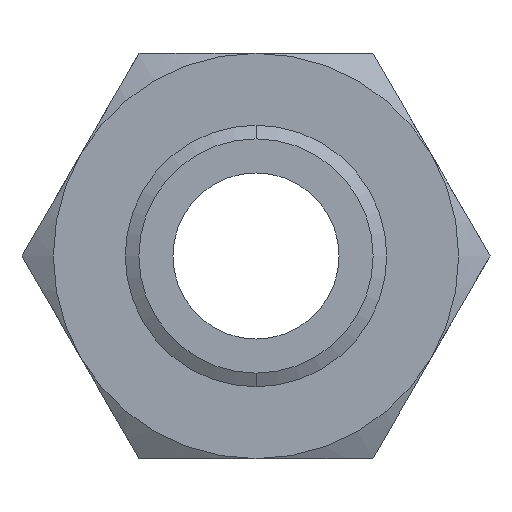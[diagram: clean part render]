
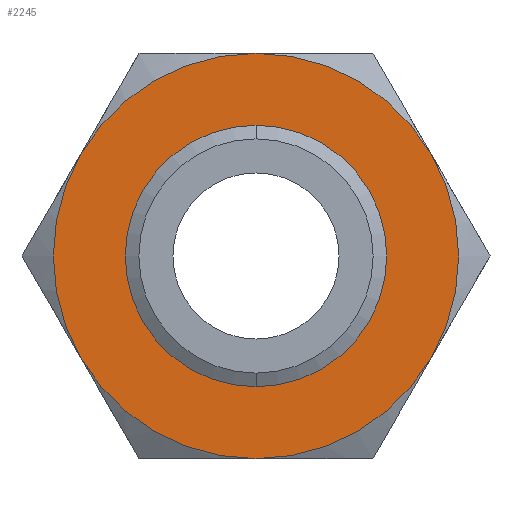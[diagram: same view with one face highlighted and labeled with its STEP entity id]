
A CAD part, front view. The second image highlights one B-rep face of the part: STEP entity #2245.
In plain terms, the highlighted planar face has unit normal (0, -1, 0).
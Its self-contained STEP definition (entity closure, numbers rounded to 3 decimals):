
#156 = ORIENTED_EDGE ( 'NONE', *, *, #2259, .F. ) ;
#1096 = CARTESIAN_POINT ( 'NONE',  ( -67.117, 0., -38.75 ) ) ;
#1217 = CARTESIAN_POINT ( 'NONE',  ( 67.117, 0., 38.75 ) ) ;
#1218 = CARTESIAN_POINT ( 'NONE',  ( 0., 0., 77.5 ) ) ;
#1230 = CARTESIAN_POINT ( 'NONE',  ( -67.117, 0., 38.75 ) ) ;
#1231 = DIRECTION ( 'NONE',  ( 0., 0., 1. ) ) ;
#1232 = DIRECTION ( 'NONE',  ( 0., 1., 0. ) ) ;
#1233 = CARTESIAN_POINT ( 'NONE',  ( 0., 0., 0. ) ) ;
#1234 = AXIS2_PLACEMENT_3D ( 'NONE', #1233, #1232, #1231 ) ;
#1235 = CIRCLE ( 'NONE', #1234, 77.5 ) ;
#1236 = DIRECTION ( 'NONE',  ( 0., 0., -1. ) ) ;
#1237 = DIRECTION ( 'NONE',  ( 0., -1., 0. ) ) ;
#1238 = CARTESIAN_POINT ( 'NONE',  ( 0., 0., 0. ) ) ;
#1239 = AXIS2_PLACEMENT_3D ( 'NONE', #1238, #1237, #1236 ) ;
#1240 = CIRCLE ( 'NONE', #1239, 44.804 ) ;
#1241 = CARTESIAN_POINT ( 'NONE',  ( 0., 0., -44.804 ) ) ;
#1242 = CARTESIAN_POINT ( 'NONE',  ( 0., 0., 44.804 ) ) ;
#1271 = DIRECTION ( 'NONE',  ( 0., 0., 1. ) ) ;
#1272 = DIRECTION ( 'NONE',  ( 0., 1., 0. ) ) ;
#1273 = CARTESIAN_POINT ( 'NONE',  ( 0., 0., 0. ) ) ;
#1274 = AXIS2_PLACEMENT_3D ( 'NONE', #1273, #1272, #1271 ) ;
#1275 = CIRCLE ( 'NONE', #1274, 77.5 ) ;
#1276 = DIRECTION ( 'NONE',  ( 0., 0., 1. ) ) ;
#1277 = DIRECTION ( 'NONE',  ( 0., 1., 0. ) ) ;
#1278 = CARTESIAN_POINT ( 'NONE',  ( 0., 0., 0. ) ) ;
#1279 = AXIS2_PLACEMENT_3D ( 'NONE', #1278, #1277, #1276 ) ;
#1280 = CIRCLE ( 'NONE', #1279, 77.5 ) ;
#1345 = AXIS2_PLACEMENT_3D ( 'NONE', #1406, #1405, #1404 ) ;
#1346 = CIRCLE ( 'NONE', #1345, 77.5 ) ;
#1394 = DIRECTION ( 'NONE',  ( 0., 0., -1. ) ) ;
#1395 = DIRECTION ( 'NONE',  ( 0., -1., 0. ) ) ;
#1396 = CARTESIAN_POINT ( 'NONE',  ( 0., 0., 0. ) ) ;
#1397 = AXIS2_PLACEMENT_3D ( 'NONE', #1396, #1395, #1394 ) ;
#1398 = CIRCLE ( 'NONE', #1397, 44.804 ) ;
#1404 = DIRECTION ( 'NONE',  ( 0., 0., 1. ) ) ;
#1405 = DIRECTION ( 'NONE',  ( 0., 1., 0. ) ) ;
#1406 = CARTESIAN_POINT ( 'NONE',  ( 0., 0., 0. ) ) ;
#1415 = CARTESIAN_POINT ( 'NONE',  ( 67.117, 0., -38.75 ) ) ;
#1416 = CARTESIAN_POINT ( 'NONE',  ( 0., 0., -77.5 ) ) ;
#1420 = DIRECTION ( 'NONE',  ( 0., 0., 1. ) ) ;
#1421 = DIRECTION ( 'NONE',  ( 0., 1., 0. ) ) ;
#1422 = CARTESIAN_POINT ( 'NONE',  ( 44.745, 0., -77.5 ) ) ;
#1425 = AXIS2_PLACEMENT_3D ( 'NONE', #1422, #1421, #1420 ) ;
#1426 = PLANE ( 'NONE',  #1425 ) ;
#1427 = FACE_BOUND ( 'NONE', #2196, .T. ) ;
#1428 = FACE_OUTER_BOUND ( 'NONE', #2161, .T. ) ;
#1462 = DIRECTION ( 'NONE',  ( 0., 0., 1. ) ) ;
#1463 = DIRECTION ( 'NONE',  ( 0., 1., 0. ) ) ;
#1464 = CARTESIAN_POINT ( 'NONE',  ( 0., 0., 0. ) ) ;
#1465 = AXIS2_PLACEMENT_3D ( 'NONE', #1464, #1463, #1462 ) ;
#1466 = CIRCLE ( 'NONE', #1465, 77.5 ) ;
#1468 = DIRECTION ( 'NONE',  ( 0., 0., 1. ) ) ;
#1469 = DIRECTION ( 'NONE',  ( 0., 1., 0. ) ) ;
#1470 = AXIS2_PLACEMENT_3D ( 'NONE', #1474, #1469, #1468 ) ;
#1471 = CIRCLE ( 'NONE', #1470, 77.5 ) ;
#1474 = CARTESIAN_POINT ( 'NONE',  ( 0., 0., 0. ) ) ;
#2092 = VERTEX_POINT ( 'NONE', #1096 ) ;
#2143 = VERTEX_POINT ( 'NONE', #1242 ) ;
#2144 = VERTEX_POINT ( 'NONE', #1241 ) ;
#2147 = ORIENTED_EDGE ( 'NONE', *, *, #2150, .F. ) ;
#2148 = EDGE_CURVE ( 'NONE', #2144, #2143, #1240, .T. ) ;
#2150 = EDGE_CURVE ( 'NONE', #2092, #2151, #1235, .T. ) ;
#2151 = VERTEX_POINT ( 'NONE', #1230 ) ;
#2156 = VERTEX_POINT ( 'NONE', #1218 ) ;
#2157 = VERTEX_POINT ( 'NONE', #1217 ) ;
#2158 = ORIENTED_EDGE ( 'NONE', *, *, #2159, .F. ) ;
#2159 = EDGE_CURVE ( 'NONE', #2151, #2156, #1280, .T. ) ;
#2160 = EDGE_CURVE ( 'NONE', #2156, #2157, #1275, .T. ) ;
#2161 = EDGE_LOOP ( 'NONE', ( #2162, #2158, #2147, #156, #2246, #2251 ) ) ;
#2162 = ORIENTED_EDGE ( 'NONE', *, *, #2160, .F. ) ;
#2196 = EDGE_LOOP ( 'NONE', ( #2224, #2230 ) ) ;
#2224 = ORIENTED_EDGE ( 'NONE', *, *, #2148, .F. ) ;
#2230 = ORIENTED_EDGE ( 'NONE', *, *, #2234, .F. ) ;
#2231 = EDGE_CURVE ( 'NONE', #2157, #2250, #1346, .T. ) ;
#2234 = EDGE_CURVE ( 'NONE', #2143, #2144, #1398, .T. ) ;
#2245 = ADVANCED_FACE ( 'NONE', ( #1428, #1427 ), #1426, .F. ) ;
#2246 = ORIENTED_EDGE ( 'NONE', *, *, #2261, .F. ) ;
#2248 = VERTEX_POINT ( 'NONE', #1416 ) ;
#2250 = VERTEX_POINT ( 'NONE', #1415 ) ;
#2251 = ORIENTED_EDGE ( 'NONE', *, *, #2231, .F. ) ;
#2259 = EDGE_CURVE ( 'NONE', #2248, #2092, #1471, .T. ) ;
#2261 = EDGE_CURVE ( 'NONE', #2250, #2248, #1466, .T. ) ;
